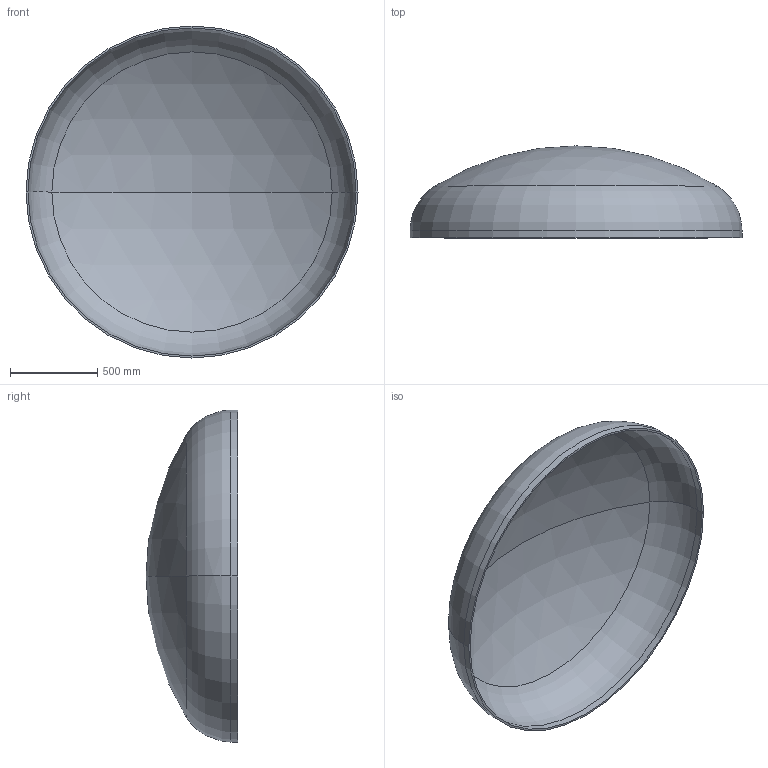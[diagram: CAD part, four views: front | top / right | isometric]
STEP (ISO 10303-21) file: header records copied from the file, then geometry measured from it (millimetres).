
FILE_DESCRIPTION (( 'STEP AP203' ), '1' );
FILE_NAME ('DIN 28013 Korbbogenform_-_Boden DIN 28013 - 1900 x 40 - I - s=11.step', '2016-07-01T12:54:36', ( '' ), ( '' ), 'SwSTEP 2.0', 'SolidWorks 2013', '' );
FILE_SCHEMA (( 'CONFIG_CONTROL_DESIGN' ));
Length unit declared in the file: millimetre
Products named in the file (1): DIN 28013 Korbbogenform_-_Boden DIN 28013 - 1900 x 40 - I - s=11
Bounding box: 1900 x 526.16 x 1900 mm (x, y, z)
Volume: 45403756.4 mm3; surface area: 8320757.8 mm2
Topology: 1 solids, 1 shells, 13 faces, 24 edges, 14 vertices
Faces by surface type: torus 4, cylinder 4, sphere 4, plane 1
Entity records: 407 total; most frequent: DIRECTION 72, CARTESIAN_POINT 52, ORIENTED_EDGE 48, AXIS2_PLACEMENT_3D 34, EDGE_CURVE 24, CIRCLE 20, EDGE_LOOP 14, VERTEX_POINT 14
